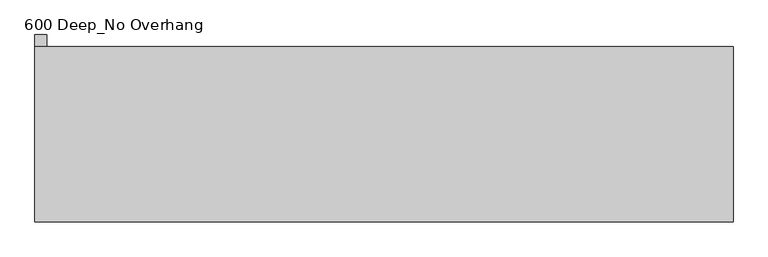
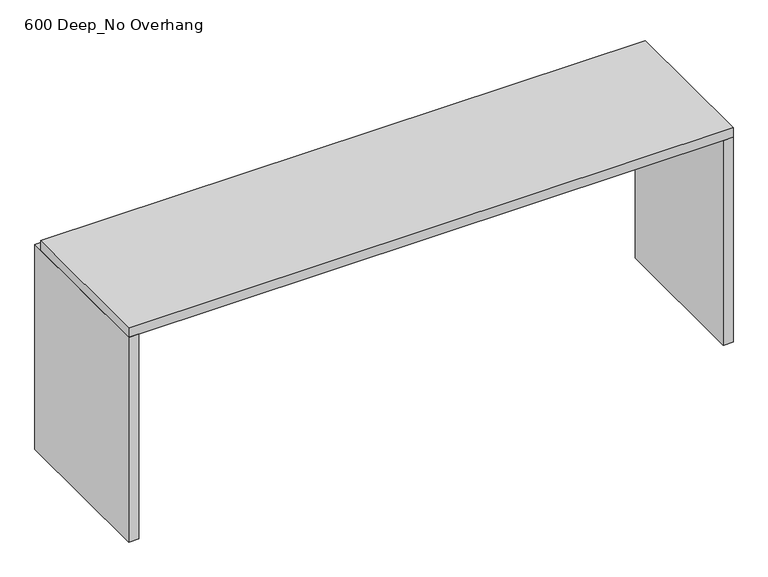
"""IFC4 building model written with IfcOpenShell, lengths in millimetres: furniture geometry, Benchtop_Optional Hole_I Shaped_CAS : 600 Deep_No Overhang."""

from ifc_helpers import new_model, si_unit, frame, origin, origin_with_axes, place, context, project, spatial, polyline, outline, extrude, source, transform, mapped, element, save


def furniture_600_deep_no_overhang_dde5dc8e(model_context):
    return source(origin(), model_context, "Body", "SweptSolid", [
        extrude(outline(polyline([(1204.7003264, -603.8881822), (1204.7003264, 0.0), (1244.7003264, 0.0), (1244.7003264, -603.8881822), (1204.7003264, -603.8881822)])), origin_with_axes(), (0.0, 0.0, 1.0), 860.0),
        extrude(outline(polyline([(-1115.2996736, 40.0), (-1115.2996736, -603.8881822), (-1155.2996736, -603.8881822), (-1155.2996736, 40.0), (-1115.2996736, 40.0)])), origin_with_axes(), (0.0, 0.0, 1.0), 860.0),
        extrude(outline(polyline([(1244.7003264, 0.0), (1244.7003264, -603.8881822), (-1155.2996736, -603.8881822), (-1155.2996736, 0.0), (1244.7003264, 0.0)])), frame((0.0, 0.0, 860.0), z_axis=(0.0, 0.0, 1.0), x_axis=(1.0, 0.0, 0.0)), (0.0, 0.0, 1.0), 40.0),
    ])


if __name__ == "__main__":
    model = new_model("IFC4")
    model_context = context("Model", 3, world=origin())
    ifc_project = project(units=[si_unit("LENGTHUNIT", "METRE", prefix="MILLI")], contexts=[model_context])
    site = spatial("IfcSite", under=ifc_project)
    building = spatial("IfcBuilding", under=site)
    placement = place(None, origin())
    furniture_600_deep_no_overhang_shape = furniture_600_deep_no_overhang_dde5dc8e(model_context)
    element("IfcFurniture", 1, ObjectType="Benchtop_Optional Hole_I Shaped_CAS : 600 Deep_No Overhang", at=placement, inside=building, context=model_context, shape_type="MappedRepresentation", body=[
        mapped(furniture_600_deep_no_overhang_shape, transform((0.0, 0.0, 0.0), x_axis=(1.0, 0.0, 0.0), y_axis=(0.0, 1.0, 0.0), z_axis=(0.0, 0.0, 1.0))),
    ])
    save(model, "model.ifc")
